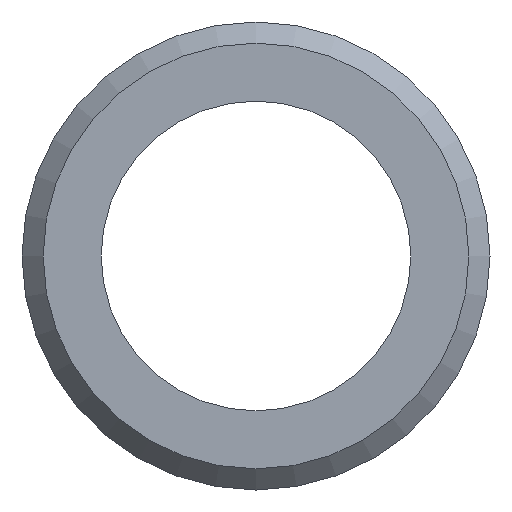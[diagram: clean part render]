
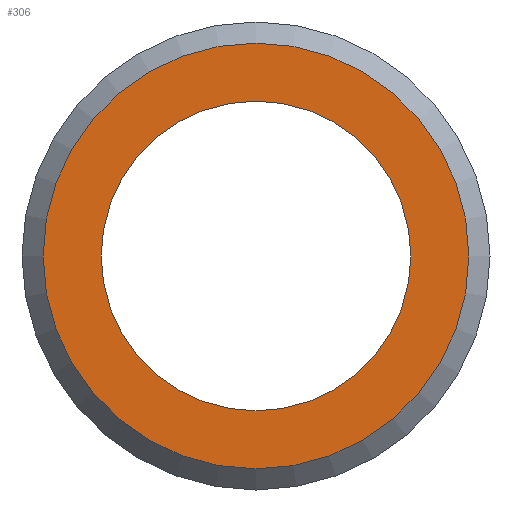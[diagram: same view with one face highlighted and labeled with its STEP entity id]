
A CAD part, left-side view. The second image highlights one B-rep face of the part: STEP entity #306.
In plain terms, the highlighted planar face has unit normal (-1, 0, 0).
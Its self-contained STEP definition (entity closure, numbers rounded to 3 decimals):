
#264=CARTESIAN_POINT('',(0.0,15.125,0.));
#265=VERTEX_POINT('',#264);
#266=CARTESIAN_POINT('',(0.0,0.0,0.0));
#267=DIRECTION('',(1.0,0.0,0.0));
#268=DIRECTION('',(0.0,-1.0,0.0));
#269=AXIS2_PLACEMENT_3D('',#266,#267,#268);
#270=CIRCLE('',#269,15.125);
#271=EDGE_CURVE('',#265,#265,#270,.T.);
#287=CARTESIAN_POINT('',(0.0,13.812,0.0));
#288=DIRECTION('',(-1.0,0.0,0.0));
#289=DIRECTION('',(0.0,0.0,1.0));
#290=AXIS2_PLACEMENT_3D('',#287,#288,#289);
#291=PLANE('',#290);
#292=ORIENTED_EDGE('',*,*,#271,.F.);
#293=EDGE_LOOP('',(#292));
#294=FACE_OUTER_BOUND('',#293,.T.);
#295=CARTESIAN_POINT('',(0.0,11.0,0.0));
#296=VERTEX_POINT('',#295);
#297=CARTESIAN_POINT('',(0.0,0.0,0.0));
#298=DIRECTION('',(1.0,0.0,0.0));
#299=DIRECTION('',(0.0,1.0,0.0));
#300=AXIS2_PLACEMENT_3D('',#297,#298,#299);
#301=CIRCLE('',#300,11.0);
#302=EDGE_CURVE('',#296,#296,#301,.T.);
#303=ORIENTED_EDGE('',*,*,#302,.T.);
#304=EDGE_LOOP('',(#303));
#305=FACE_BOUND('',#304,.T.);
#306=ADVANCED_FACE('',(#294,#305),#291,.T.);
